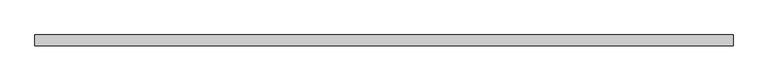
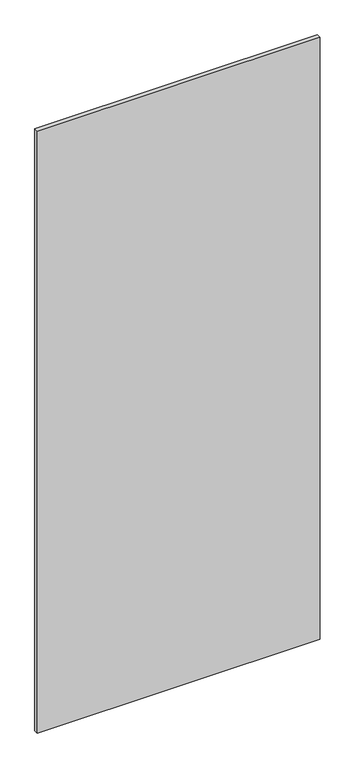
"""IFC4 building model written with IfcOpenShell, lengths in millimetres: proxy geometry, Cladding Board_iWood_FOSB Panel_American Walnut : Cladding Board_iWood_FOSB Panel_American Walnut."""

from ifc_helpers import new_model, si_unit, origin, origin_with_axes, place, context, project, spatial, polyline, outline, extrude, source, transform, mapped, element, save


def generic_models_e840f3b6(model_context):
    return source(origin(), model_context, "Body", "SweptSolid", [
        extrude(outline(polyline([(1160.0, 1978.2525449), (1160.0, 1959.2525449), (-60.0, 1959.2525449), (-60.0, 1978.2525449), (1160.0, 1978.2525449)])), origin_with_axes(), (0.0, 0.0, 1.0), 2745.0),
    ])


if __name__ == "__main__":
    model = new_model("IFC4")
    model_context = context("Model", 3, world=origin())
    ifc_project = project(units=[si_unit("LENGTHUNIT", "METRE", prefix="MILLI")], contexts=[model_context])
    site = spatial("IfcSite", under=ifc_project)
    building = spatial("IfcBuilding", under=site)
    placement = place(None, origin())
    generic_models_shape = generic_models_e840f3b6(model_context)
    element("IfcBuildingElementProxy", 1, Name="Cladding Board_iWood_FOSB Panel_American Walnut : Cladding Board_iWood_FOSB Panel_American Walnut", ObjectType="Cladding Board_iWood_FOSB Panel_American Walnut : Cladding Board_iWood_FOSB Panel_American Walnut", at=placement, inside=building, context=model_context, shape_type="MappedRepresentation", body=[
        mapped(generic_models_shape, transform((0.0, 0.0, 0.0), x_axis=(1.0, 0.0, 0.0), y_axis=(0.0, 1.0, 0.0), z_axis=(0.0, 0.0, 1.0))),
    ])
    save(model, "model.ifc")
